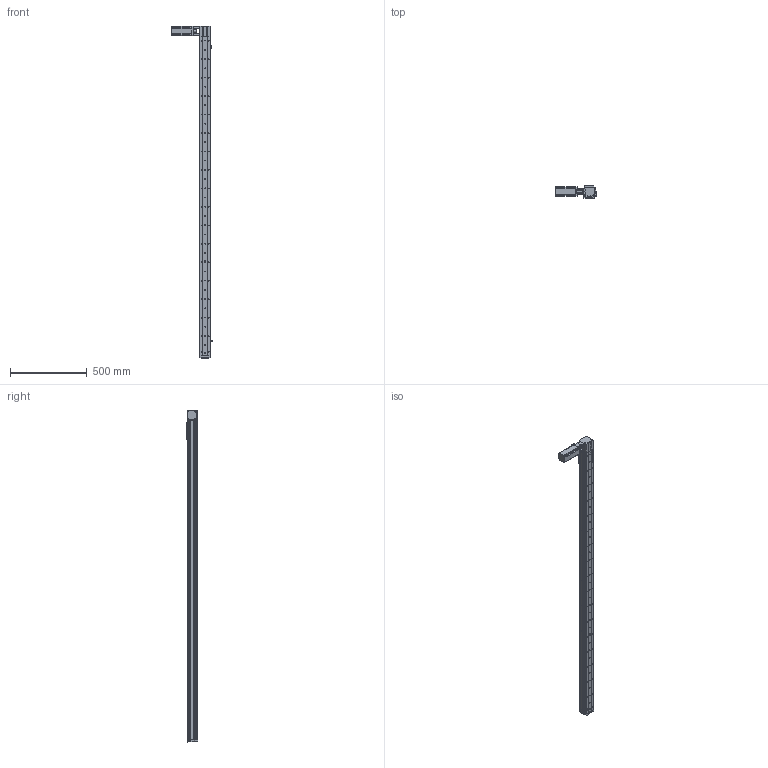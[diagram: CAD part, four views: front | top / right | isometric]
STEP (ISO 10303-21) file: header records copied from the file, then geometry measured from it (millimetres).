
FILE_DESCRIPTION (( 'STEP AP214' ), '1' );
FILE_NAME ('KSD68BS-S1900-MLT-CR.STEP', '2019-08-28T05:39:56', ( '微软用户' ), ( '微软中国' ), 'SwSTEP 2.0', 'SolidWorks 2014', '' );
FILE_SCHEMA (( 'AUTOMOTIVE_DESIGN' ));
Length unit declared in the file: millimetre
Products named in the file (13): 68遵裔啣揤啣1; 68宽单导轨全封闭丝杆传动安装板1防护罩; KSD68BS 1900行程侧板全封闭; 68宽单导轨全封闭同步带端板; 68单导轨全封闭同步带电机座右; 68单导轨全封闭同步带安装板; 感应片68宽全封闭; U倰嫖萇EEㄜSX672; 台达ECMA－C20604AS伺服电机（400W); KSD68BS 1900行程底板全封闭; KSD68BS-S1900-MLT-CR; 100遵鎮湛假蚾啣1; KSD68BS 1900行程盖板全封闭
Assembly tree (14 placements, depth 2):
  KSD68BS-S1900-MLT-CR
    KSD68BS 1900行程底板全封闭
    台达ECMA－C20604AS伺服电机（400W)
    U倰嫖萇EEㄜSX672
    感应片68宽全封闭
    68单导轨全封闭同步带安装板
    68单导轨全封闭同步带电机座右
    68宽单导轨全封闭同步带端板
    KSD68BS 1900行程侧板全封闭  x2
    68宽单导轨全封闭丝杆传动安装板1防护罩
    68遵裔啣揤啣1  x2
    KSD68BS 1900行程盖板全封闭
    100遵鎮湛假蚾啣1
Bounding box: 266.4 x 77 x 2158.1 mm (x, y, z)
Volume: 3694742.6 mm3; surface area: 1502277.5 mm2
Topology: 15 solids, 15 shells, 1394 faces, 4062 edges, 2561 vertices
Faces by surface type: cylinder 730, plane 464, cone 200
Entity records: 52709 total; most frequent: CARTESIAN_POINT 9179, DIRECTION 7762, ORIENTED_EDGE 7432, EDGE_CURVE 3716, AXIS2_PLACEMENT_3D 2846, VERTEX_POINT 2435, VECTOR 2070, LINE 2070
